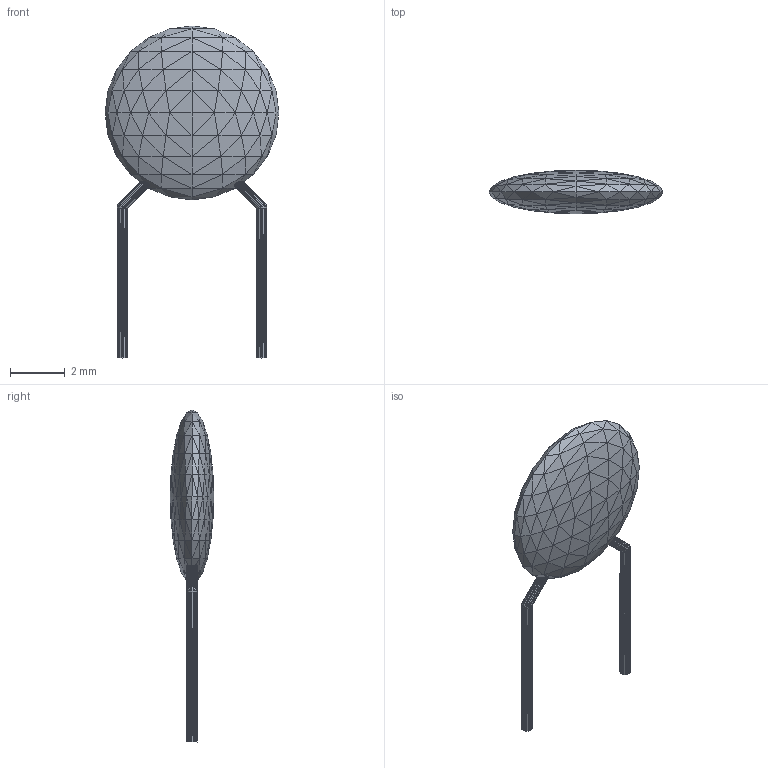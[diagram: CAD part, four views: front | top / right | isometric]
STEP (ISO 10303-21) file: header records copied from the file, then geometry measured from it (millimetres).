
FILE_DESCRIPTION(('HOOPS Exchange Step'),'2;1');
FILE_NAME('***.stp');
FILE_SCHEMA( ('AP242_MANAGED_MODEL_BASED_3D_ENGINEERING_MIM_LF {1 0 10303 442 1 1 4 }') );
Length unit declared in the file: inch
Products named in the file (8): CAPMDPF_2; CAPMDPF_3; CAPMDPF_4; CAPMDPF_5; CAPMDPF_6; CAPMDPF_7; CAPMDPF_8; CAPMDPF
Assembly tree (7 placements, depth 2):
  CAPMDPF
    CAPMDPF_2
    CAPMDPF_3
    CAPMDPF_4
    CAPMDPF_5
    CAPMDPF_6
    CAPMDPF_7
    CAPMDPF_8
Bounding box: 6.35 x 1.59 x 12.13 mm (x, y, z)
Volume: 34 mm3; surface area: 91.1 mm2
Topology: 7 solids, 7 shells, 1248 faces, 1872 edges, 638 vertices
Faces by surface type: plane 1248
Entity records: 24700 total; most frequent: DIRECTION 4400, CARTESIAN_POINT 3774, ORIENTED_EDGE 3744, VECTOR 1872, LINE 1872, EDGE_CURVE 1872, AXIS2_PLACEMENT_3D 1264, PLANE 1248
